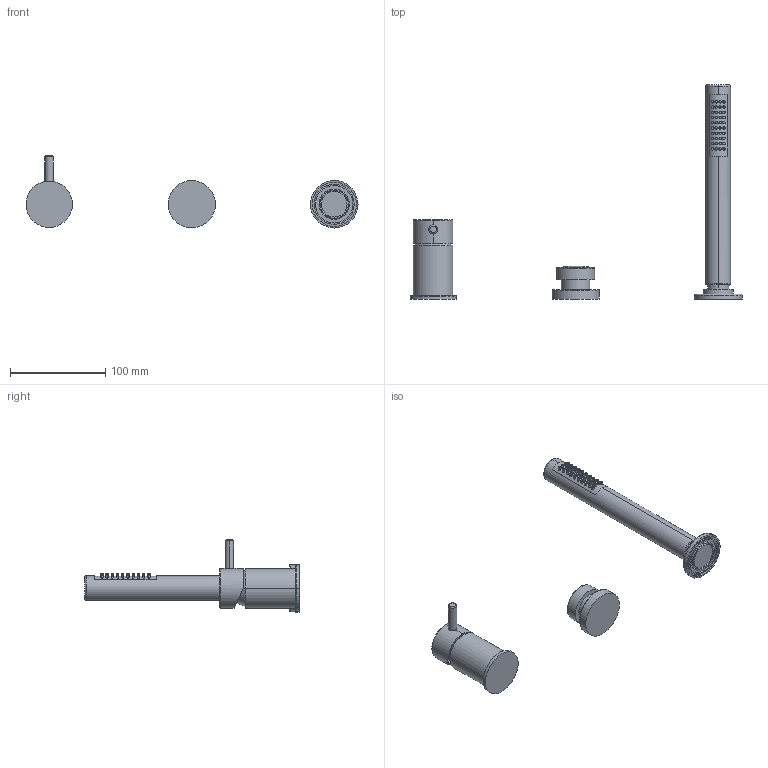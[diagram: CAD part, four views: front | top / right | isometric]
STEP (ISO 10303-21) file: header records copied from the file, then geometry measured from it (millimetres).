
FILE_DESCRIPTION((''),'2;1');
FILE_NAME('12028_SW0001','2025-03-04T11:20:19',('carloff'),(''),'CREO PARAMETRIC BY PTC INC, 2022014','CREO PARAMETRIC BY PTC INC, 2022014','');
FILE_SCHEMA(('CONFIG_CONTROL_DESIGN'));
Length unit declared in the file: millimetre
Products named in the file (1): 12028_SW0001
Bounding box: 349.4 x 225.5 x 75.8 mm (x, y, z)
Volume: 269859.2 mm3; surface area: 57787.8 mm2
Topology: 4 solids, 4 shells, 363 faces, 825 edges, 524 vertices
Faces by surface type: cylinder 203, plane 66, bspline 53, torus 24, cone 17
Entity records: 14504 total; most frequent: CARTESIAN_POINT 6978, ORIENTED_EDGE 1642, DIRECTION 1303, EDGE_CURVE 821, VERTEX_POINT 524, AXIS2_PLACEMENT_3D 508, EDGE_LOOP 423, FACE_OUTER_BOUND 363
